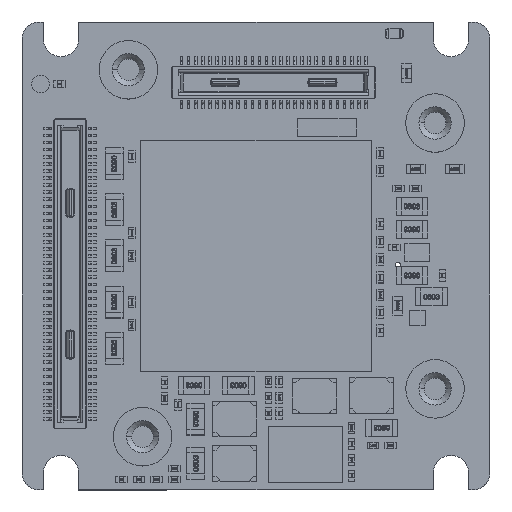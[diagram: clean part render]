
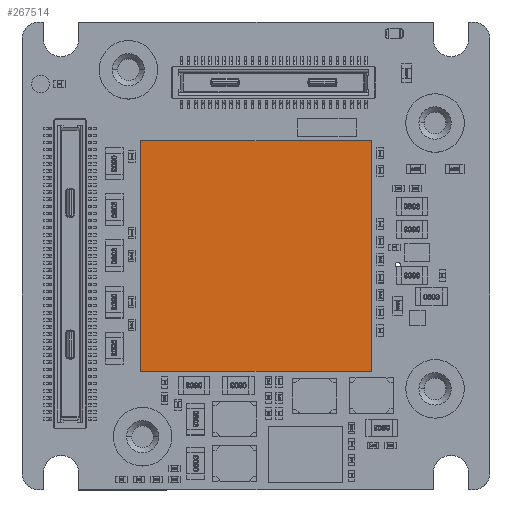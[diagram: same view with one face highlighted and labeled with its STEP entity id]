
A CAD part, top view. The second image highlights one B-rep face of the part: STEP entity #267514.
In plain terms, the highlighted planar face has unit normal (0, 0, 1).
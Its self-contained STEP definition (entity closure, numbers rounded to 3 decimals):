
#20908 = DIRECTION ( 'NONE',  ( 0., -1., 0. ) ) ;
#62017 = CARTESIAN_POINT ( 'NONE',  ( -6.5, -6.5, 6.167 ) ) ;
#69702 = ORIENTED_EDGE ( 'NONE', *, *, #373367, .F. ) ;
#109948 = ORIENTED_EDGE ( 'NONE', *, *, #387910, .F. ) ;
#144933 = AXIS2_PLACEMENT_3D ( 'NONE', #301477, #159038, #432405 ) ;
#159038 = DIRECTION ( 'NONE',  ( 0., 0., -1. ) ) ;
#178136 = VECTOR ( 'NONE', #393257, 1000. ) ;
#184566 = CARTESIAN_POINT ( 'NONE',  ( 6.5, 6.5, 6.167 ) ) ;
#189679 = CARTESIAN_POINT ( 'NONE',  ( 6.5, -6.5, 6.167 ) ) ;
#215306 = VERTEX_POINT ( 'NONE', #189679 ) ;
#217917 = LINE ( 'NONE', #351501, #178136 ) ;
#230847 = LINE ( 'NONE', #581498, #378141 ) ;
#244406 = VERTEX_POINT ( 'NONE', #184566 ) ;
#257326 = ORIENTED_EDGE ( 'NONE', *, *, #390048, .F. ) ;
#266719 = DIRECTION ( 'NONE',  ( 1., 0., 0. ) ) ;
#267514 = ADVANCED_FACE ( 'NONE', ( #441213 ), #518641, .F. ) ;
#299519 = LINE ( 'NONE', #472118, #309109 ) ;
#301477 = CARTESIAN_POINT ( 'NONE',  ( 0., 0., 6.167 ) ) ;
#309109 = VECTOR ( 'NONE', #516669, 1000. ) ;
#316103 = VERTEX_POINT ( 'NONE', #62017 ) ;
#351501 = CARTESIAN_POINT ( 'NONE',  ( -6.5, -6.5, 6.167 ) ) ;
#373367 = EDGE_CURVE ( 'NONE', #244406, #215306, #380458, .T. ) ;
#378141 = VECTOR ( 'NONE', #266719, 1000. ) ;
#380458 = LINE ( 'NONE', #422174, #392479 ) ;
#387910 = EDGE_CURVE ( 'NONE', #215306, #316103, #299519, .T. ) ;
#390048 = EDGE_CURVE ( 'NONE', #406341, #244406, #230847, .T. ) ;
#392479 = VECTOR ( 'NONE', #20908, 1000. ) ;
#393257 = DIRECTION ( 'NONE',  ( 0., 1., 0. ) ) ;
#396166 = ORIENTED_EDGE ( 'NONE', *, *, #524598, .F. ) ;
#406341 = VERTEX_POINT ( 'NONE', #411382 ) ;
#411382 = CARTESIAN_POINT ( 'NONE',  ( -6.5, 6.5, 6.167 ) ) ;
#422174 = CARTESIAN_POINT ( 'NONE',  ( 6.5, 6.5, 6.167 ) ) ;
#432405 = DIRECTION ( 'NONE',  ( 0., -1., 0. ) ) ;
#441213 = FACE_OUTER_BOUND ( 'NONE', #569220, .T. ) ;
#472118 = CARTESIAN_POINT ( 'NONE',  ( 6.5, -6.5, 6.167 ) ) ;
#516669 = DIRECTION ( 'NONE',  ( -1., 0., 0. ) ) ;
#518641 = PLANE ( 'NONE',  #144933 ) ;
#524598 = EDGE_CURVE ( 'NONE', #316103, #406341, #217917, .T. ) ;
#569220 = EDGE_LOOP ( 'NONE', ( #109948, #69702, #257326, #396166 ) ) ;
#581498 = CARTESIAN_POINT ( 'NONE',  ( -6.5, 6.5, 6.167 ) ) ;
